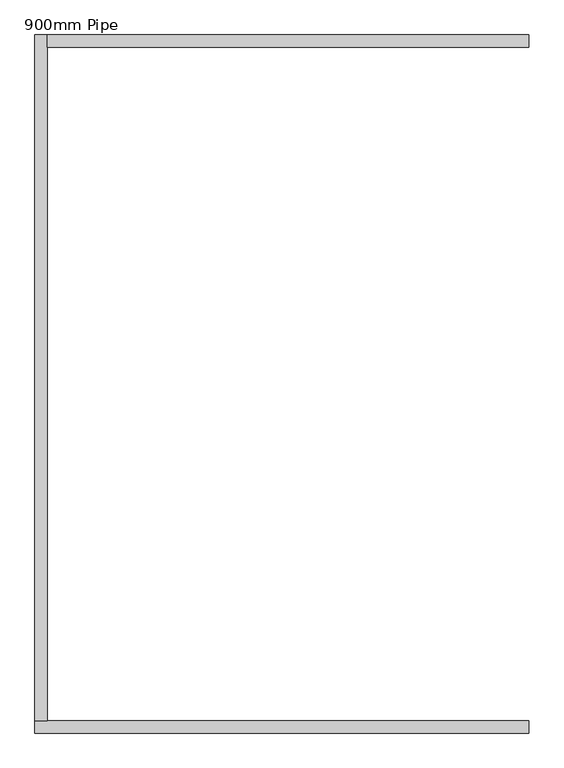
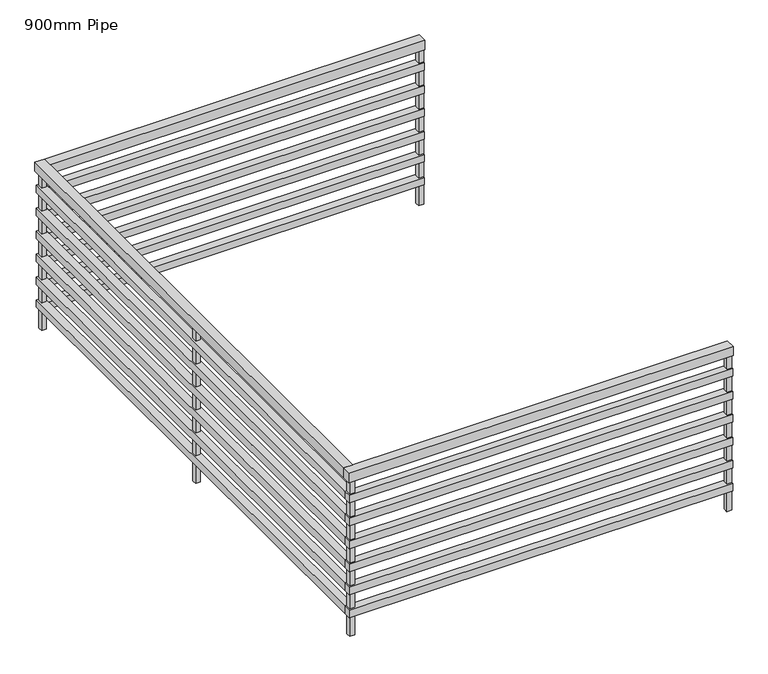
"""IFC4 building model written with IfcOpenShell, lengths in millimetres: railing geometry, 900mm Pipe."""

from ifc_helpers import new_model, si_unit, frame, origin, place, context, project, spatial, polyline, outline, extrude, source, transform, mapped, element, save


def railing_900mm_pipe_289d2cf6(model_context):
    return source(origin(), model_context, "Body", "SweptSolid", [
        extrude(outline(polyline([(-10656.4352243, 7447.6290541), (-10656.4352243, 7397.6290541), (-12587.1962165, 7397.6290541), (-12587.1962165, 7447.6290541), (-10656.4352243, 7447.6290541)])), frame((0.0, 0.0, 12550.0), z_axis=(0.0, 0.0, 1.0), x_axis=(1.0, 0.0, 0.0)), (0.0, 0.0, 1.0), 50.0),
        extrude(outline(polyline([(-12637.1962165, 7447.6290541), (-12587.1962165, 7447.6290541), (-12587.1962165, 4697.6290541), (-12637.1962165, 4697.6290541), (-12637.1962165, 7447.6290541)])), frame((0.0, 0.0, 12550.0), z_axis=(0.0, 0.0, 1.0), x_axis=(1.0, 0.0, 0.0)), (0.0, 0.0, 1.0), 50.0),
        extrude(outline(polyline([(-12637.1962165, 4647.6290541), (-12637.1962165, 4697.6290541), (-10656.4352243, 4697.6290541), (-10656.4352243, 4647.6290541), (-12637.1962165, 4647.6290541)])), frame((0.0, 0.0, 12550.0), z_axis=(0.0, 0.0, 1.0), x_axis=(1.0, 0.0, 0.0)), (0.0, 0.0, 1.0), 50.0),
        extrude(outline(polyline([(-10656.4352243, 7442.6290541), (-10656.4352243, 7402.6290541), (-12592.1962165, 7402.6290541), (-12592.1962165, 7442.6290541), (-10656.4352243, 7442.6290541)])), frame((0.0, 0.0, 12435.0), z_axis=(0.0, 0.0, 1.0), x_axis=(1.0, 0.0, 0.0)), (0.0, 0.0, 1.0), 40.0),
        extrude(outline(polyline([(-12632.1962165, 7442.6290541), (-12592.1962165, 7442.6290541), (-12592.1962165, 4692.6290541), (-12632.1962165, 4692.6290541), (-12632.1962165, 7442.6290541)])), frame((0.0, 0.0, 12435.0), z_axis=(0.0, 0.0, 1.0), x_axis=(1.0, 0.0, 0.0)), (0.0, 0.0, 1.0), 40.0),
        extrude(outline(polyline([(-12632.1962165, 4652.6290541), (-12632.1962165, 4692.6290541), (-10656.4352243, 4692.6290541), (-10656.4352243, 4652.6290541), (-12632.1962165, 4652.6290541)])), frame((0.0, 0.0, 12435.0), z_axis=(0.0, 0.0, 1.0), x_axis=(1.0, 0.0, 0.0)), (0.0, 0.0, 1.0), 40.0),
        extrude(outline(polyline([(-10656.4352243, 7442.6290541), (-10656.4352243, 7402.6290541), (-12592.1962165, 7402.6290541), (-12592.1962165, 7442.6290541), (-10656.4352243, 7442.6290541)])), frame((0.0, 0.0, 12310.0), z_axis=(0.0, 0.0, 1.0), x_axis=(1.0, 0.0, 0.0)), (0.0, 0.0, 1.0), 40.0),
        extrude(outline(polyline([(-12632.1962165, 7442.6290541), (-12592.1962165, 7442.6290541), (-12592.1962165, 4692.6290541), (-12632.1962165, 4692.6290541), (-12632.1962165, 7442.6290541)])), frame((0.0, 0.0, 12310.0), z_axis=(0.0, 0.0, 1.0), x_axis=(1.0, 0.0, 0.0)), (0.0, 0.0, 1.0), 40.0),
        extrude(outline(polyline([(-12632.1962165, 4652.6290541), (-12632.1962165, 4692.6290541), (-10656.4352243, 4692.6290541), (-10656.4352243, 4652.6290541), (-12632.1962165, 4652.6290541)])), frame((0.0, 0.0, 12310.0), z_axis=(0.0, 0.0, 1.0), x_axis=(1.0, 0.0, 0.0)), (0.0, 0.0, 1.0), 40.0),
        extrude(outline(polyline([(-10656.4352243, 7442.6290541), (-10656.4352243, 7402.6290541), (-12592.1962165, 7402.6290541), (-12592.1962165, 7442.6290541), (-10656.4352243, 7442.6290541)])), frame((0.0, 0.0, 12185.0), z_axis=(0.0, 0.0, 1.0), x_axis=(1.0, 0.0, 0.0)), (0.0, 0.0, 1.0), 40.0),
        extrude(outline(polyline([(-12632.1962165, 7442.6290541), (-12592.1962165, 7442.6290541), (-12592.1962165, 4692.6290541), (-12632.1962165, 4692.6290541), (-12632.1962165, 7442.6290541)])), frame((0.0, 0.0, 12185.0), z_axis=(0.0, 0.0, 1.0), x_axis=(1.0, 0.0, 0.0)), (0.0, 0.0, 1.0), 40.0),
        extrude(outline(polyline([(-12632.1962165, 4652.6290541), (-12632.1962165, 4692.6290541), (-10656.4352243, 4692.6290541), (-10656.4352243, 4652.6290541), (-12632.1962165, 4652.6290541)])), frame((0.0, 0.0, 12185.0), z_axis=(0.0, 0.0, 1.0), x_axis=(1.0, 0.0, 0.0)), (0.0, 0.0, 1.0), 40.0),
        extrude(outline(polyline([(-10656.4352243, 7442.6290541), (-10656.4352243, 7402.6290541), (-12592.1962165, 7402.6290541), (-12592.1962165, 7442.6290541), (-10656.4352243, 7442.6290541)])), frame((0.0, 0.0, 12060.0), z_axis=(0.0, 0.0, 1.0), x_axis=(1.0, 0.0, 0.0)), (0.0, 0.0, 1.0), 40.0),
        extrude(outline(polyline([(-12632.1962165, 7442.6290541), (-12592.1962165, 7442.6290541), (-12592.1962165, 4692.6290541), (-12632.1962165, 4692.6290541), (-12632.1962165, 7442.6290541)])), frame((0.0, 0.0, 12060.0), z_axis=(0.0, 0.0, 1.0), x_axis=(1.0, 0.0, 0.0)), (0.0, 0.0, 1.0), 40.0),
        extrude(outline(polyline([(-12632.1962165, 4652.6290541), (-12632.1962165, 4692.6290541), (-10656.4352243, 4692.6290541), (-10656.4352243, 4652.6290541), (-12632.1962165, 4652.6290541)])), frame((0.0, 0.0, 12060.0), z_axis=(0.0, 0.0, 1.0), x_axis=(1.0, 0.0, 0.0)), (0.0, 0.0, 1.0), 40.0),
        extrude(outline(polyline([(-10656.4352243, 7442.6290541), (-10656.4352243, 7402.6290541), (-12592.1962165, 7402.6290541), (-12592.1962165, 7442.6290541), (-10656.4352243, 7442.6290541)])), frame((0.0, 0.0, 11935.0), z_axis=(0.0, 0.0, 1.0), x_axis=(1.0, 0.0, 0.0)), (0.0, 0.0, 1.0), 40.0),
        extrude(outline(polyline([(-12632.1962165, 7442.6290541), (-12592.1962165, 7442.6290541), (-12592.1962165, 4692.6290541), (-12632.1962165, 4692.6290541), (-12632.1962165, 7442.6290541)])), frame((0.0, 0.0, 11935.0), z_axis=(0.0, 0.0, 1.0), x_axis=(1.0, 0.0, 0.0)), (0.0, 0.0, 1.0), 40.0),
        extrude(outline(polyline([(-12632.1962165, 4652.6290541), (-12632.1962165, 4692.6290541), (-10656.4352243, 4692.6290541), (-10656.4352243, 4652.6290541), (-12632.1962165, 4652.6290541)])), frame((0.0, 0.0, 11935.0), z_axis=(0.0, 0.0, 1.0), x_axis=(1.0, 0.0, 0.0)), (0.0, 0.0, 1.0), 40.0),
        extrude(outline(polyline([(-10656.4352243, 7442.6290541), (-10656.4352243, 7402.6290541), (-12592.1962165, 7402.6290541), (-12592.1962165, 7442.6290541), (-10656.4352243, 7442.6290541)])), frame((0.0, 0.0, 11810.0), z_axis=(0.0, 0.0, 1.0), x_axis=(1.0, 0.0, 0.0)), (0.0, 0.0, 1.0), 40.0),
        extrude(outline(polyline([(-12632.1962165, 7442.6290541), (-12592.1962165, 7442.6290541), (-12592.1962165, 4692.6290541), (-12632.1962165, 4692.6290541), (-12632.1962165, 7442.6290541)])), frame((0.0, 0.0, 11810.0), z_axis=(0.0, 0.0, 1.0), x_axis=(1.0, 0.0, 0.0)), (0.0, 0.0, 1.0), 40.0),
        extrude(outline(polyline([(-12632.1962165, 4652.6290541), (-12632.1962165, 4692.6290541), (-10656.4352243, 4692.6290541), (-10656.4352243, 4652.6290541), (-12632.1962165, 4652.6290541)])), frame((0.0, 0.0, 11810.0), z_axis=(0.0, 0.0, 1.0), x_axis=(1.0, 0.0, 0.0)), (0.0, 0.0, 1.0), 40.0),
        extrude(outline(polyline([(-12624.6962165, 6060.1290541), (-12599.6962165, 6060.1290541), (-12599.6962165, 6035.1290541), (-12624.6962165, 6035.1290541), (-12624.6962165, 6060.1290541)])), frame((0.0, 0.0, 11700.0), z_axis=(0.0, 0.0, 1.0), x_axis=(1.0, 0.0, 0.0)), (0.0, 0.0, 1.0), 850.0),
        extrude(outline(polyline([(-12624.6962165, 4685.1290541), (-12599.6962165, 4685.1290541), (-12599.6962165, 4660.1290541), (-12624.6962165, 4660.1290541), (-12624.6962165, 4685.1290541)])), frame((0.0, 0.0, 11700.0), z_axis=(0.0, 0.0, 1.0), x_axis=(1.0, 0.0, 0.0)), (0.0, 0.0, 1.0), 850.0),
        extrude(outline(polyline([(-12599.6962165, 7435.1290541), (-12599.6962165, 7410.1290541), (-12624.6962165, 7410.1290541), (-12624.6962165, 7435.1290541), (-12599.6962165, 7435.1290541)])), frame((0.0, 0.0, 11700.0), z_axis=(0.0, 0.0, 1.0), x_axis=(1.0, 0.0, 0.0)), (0.0, 0.0, 1.0), 850.0),
        extrude(outline(polyline([(-10681.4352243, 4660.1290541), (-10681.4352243, 4685.1290541), (-10656.4352243, 4685.1290541), (-10656.4352243, 4660.1290541), (-10681.4352243, 4660.1290541)])), frame((0.0, 0.0, 11700.0), z_axis=(0.0, 0.0, 1.0), x_axis=(1.0, 0.0, 0.0)), (0.0, 0.0, 1.0), 850.0),
        extrude(outline(polyline([(-10656.4352243, 7435.1290541), (-10656.4352243, 7410.1290541), (-10681.4352243, 7410.1290541), (-10681.4352243, 7435.1290541), (-10656.4352243, 7435.1290541)])), frame((0.0, 0.0, 11700.0), z_axis=(0.0, 0.0, 1.0), x_axis=(1.0, 0.0, 0.0)), (0.0, 0.0, 1.0), 850.0),
    ])


if __name__ == "__main__":
    model = new_model("IFC4")
    model_context = context("Model", 3, world=origin())
    ifc_project = project(units=[si_unit("LENGTHUNIT", "METRE", prefix="MILLI")], contexts=[model_context])
    site = spatial("IfcSite", under=ifc_project)
    building = spatial("IfcBuilding", under=site)
    placement = place(None, origin())
    railing_900mm_pipe_shape = railing_900mm_pipe_289d2cf6(model_context)
    element("IfcRailing", 1, ObjectType="900mm Pipe", at=placement, inside=building, context=model_context, shape_type="MappedRepresentation", body=[
        mapped(railing_900mm_pipe_shape, transform((0.0, 0.0, 0.0), x_axis=(1.0, 0.0, 0.0), y_axis=(0.0, 1.0, 0.0), z_axis=(0.0, 0.0, 1.0))),
    ])
    save(model, "model.ifc")
